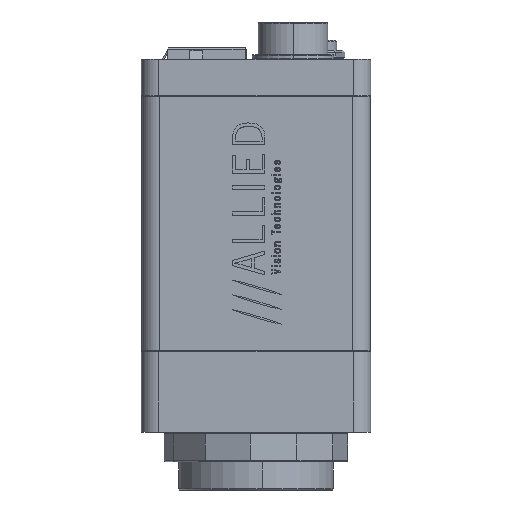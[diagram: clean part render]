
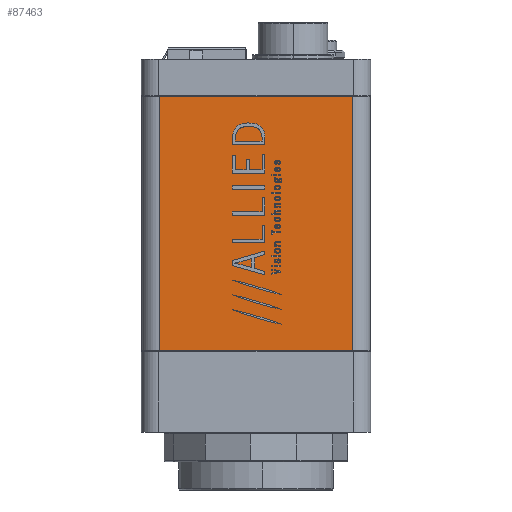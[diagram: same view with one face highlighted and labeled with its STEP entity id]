
A CAD part, left-side view. The second image highlights one B-rep face of the part: STEP entity #87463.
In plain terms, the highlighted planar face has unit normal (-1, 0, 0).
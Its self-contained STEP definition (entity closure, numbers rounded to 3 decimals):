
#1222 = EDGE_CURVE ( 'NONE', #133711, #87502, #133743, .T. ) ;
#1704 = FACE_OUTER_BOUND ( 'NONE', #136486, .T. ) ;
#6352 = CARTESIAN_POINT ( 'NONE',  ( -25.714, -16.558, 108.336 ) ) ;
#13360 = VECTOR ( 'NONE', #155761, 1000. ) ;
#25749 = DIRECTION ( 'NONE',  ( 0., 1., 0. ) ) ;
#25936 = LINE ( 'NONE', #6352, #178639 ) ;
#26811 = EDGE_CURVE ( 'NONE', #160296, #133711, #65473, .T. ) ;
#28545 = PLANE ( 'NONE',  #123890 ) ;
#30500 = CARTESIAN_POINT ( 'NONE',  ( -25.714, 16.558, 108.336 ) ) ;
#43073 = CARTESIAN_POINT ( 'NONE',  ( -25.714, -16.558, 43.65 ) ) ;
#45855 = DIRECTION ( 'NONE',  ( 0., 0., 1. ) ) ;
#58615 = ORIENTED_EDGE ( 'NONE', *, *, #166713, .T. ) ;
#60455 = DIRECTION ( 'NONE',  ( 0., 0., 1. ) ) ;
#60649 = VECTOR ( 'NONE', #25749, 1000. ) ;
#63080 = CARTESIAN_POINT ( 'NONE',  ( -25.714, 16.558, 0. ) ) ;
#65473 = LINE ( 'NONE', #132604, #60649 ) ;
#77300 = CARTESIAN_POINT ( 'NONE',  ( -25.714, 16.558, 43.65 ) ) ;
#87463 = ADVANCED_FACE ( 'NONE', ( #1704 ), #28545, .T. ) ;
#87502 = VERTEX_POINT ( 'NONE', #77300 ) ;
#93833 = ORIENTED_EDGE ( 'NONE', *, *, #1222, .F. ) ;
#94695 = LINE ( 'NONE', #125119, #13360 ) ;
#107295 = VERTEX_POINT ( 'NONE', #43073 ) ;
#111254 = ORIENTED_EDGE ( 'NONE', *, *, #26811, .F. ) ;
#123890 = AXIS2_PLACEMENT_3D ( 'NONE', #30500, #137325, #45855 ) ;
#125119 = CARTESIAN_POINT ( 'NONE',  ( -25.714, 16.558, 43.65 ) ) ;
#131357 = ORIENTED_EDGE ( 'NONE', *, *, #194345, .F. ) ;
#132604 = CARTESIAN_POINT ( 'NONE',  ( -25.714, -16.558, 0. ) ) ;
#133711 = VERTEX_POINT ( 'NONE', #63080 ) ;
#133743 = LINE ( 'NONE', #136547, #169387 ) ;
#135217 = CARTESIAN_POINT ( 'NONE',  ( -25.714, -16.558, 0. ) ) ;
#136486 = EDGE_LOOP ( 'NONE', ( #93833, #111254, #58615, #131357 ) ) ;
#136547 = CARTESIAN_POINT ( 'NONE',  ( -25.714, 16.558, 108.336 ) ) ;
#137325 = DIRECTION ( 'NONE',  ( -1., 0., 0. ) ) ;
#143890 = DIRECTION ( 'NONE',  ( 0., 0., 1. ) ) ;
#155761 = DIRECTION ( 'NONE',  ( 0., -1., 0. ) ) ;
#160296 = VERTEX_POINT ( 'NONE', #135217 ) ;
#166713 = EDGE_CURVE ( 'NONE', #160296, #107295, #25936, .T. ) ;
#169387 = VECTOR ( 'NONE', #60455, 1000. ) ;
#178639 = VECTOR ( 'NONE', #143890, 1000. ) ;
#194345 = EDGE_CURVE ( 'NONE', #87502, #107295, #94695, .T. ) ;
